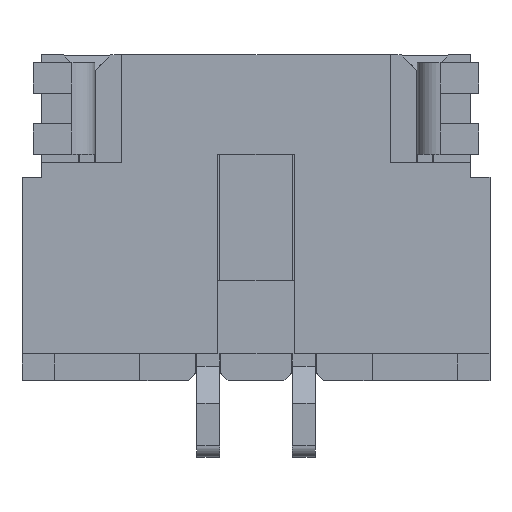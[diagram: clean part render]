
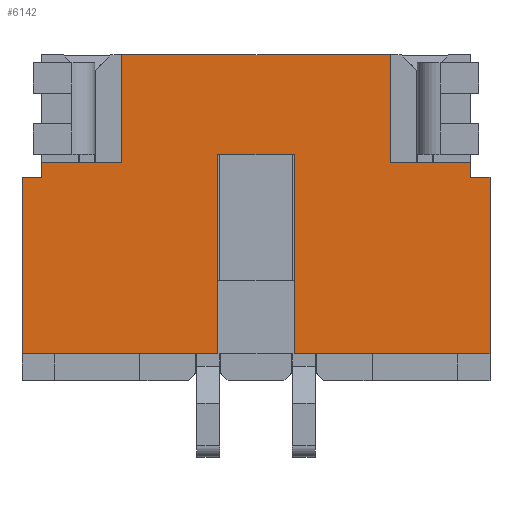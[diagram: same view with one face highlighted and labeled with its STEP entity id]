
A CAD part, top view. The second image highlights one B-rep face of the part: STEP entity #6142.
In plain terms, the highlighted planar face has unit normal (0, 0, 1).
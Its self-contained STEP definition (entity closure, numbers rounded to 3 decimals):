
#387=DIRECTION('',(0.,-1.,0.));
#388=VECTOR('',#387,2.6);
#389=CARTESIAN_POINT('',(3.555,-1.3,1.95));
#390=LINE('',#389,#388);
#439=DIRECTION('',(-1.,0.,0.));
#440=VECTOR('',#439,3.51);
#441=CARTESIAN_POINT('',(4.81,0.,1.95));
#442=LINE('',#441,#440);
#491=DIRECTION('',(0.,1.,0.));
#492=VECTOR('',#491,0.2);
#493=CARTESIAN_POINT('',(5.86,-1.6,1.95));
#494=LINE('',#493,#492);
#495=DIRECTION('',(-1.,0.,0.));
#496=VECTOR('',#495,1.05);
#497=CARTESIAN_POINT('',(5.86,-1.4,1.95));
#498=LINE('',#497,#496);
#1677=DIRECTION('',(-1.,0.,0.));
#1678=VECTOR('',#1677,1.05);
#1679=CARTESIAN_POINT('',(1.3,-1.4,1.95));
#1680=LINE('',#1679,#1678);
#1933=DIRECTION('',(0.,-1.,0.));
#1934=VECTOR('',#1933,1.4);
#1935=CARTESIAN_POINT('',(1.3,0.,1.95));
#1936=LINE('',#1935,#1934);
#1945=DIRECTION('',(0.,-1.,0.));
#1946=VECTOR('',#1945,2.6);
#1947=CARTESIAN_POINT('',(2.555,-1.3,1.95));
#1948=LINE('',#1947,#1946);
#1949=DIRECTION('',(-1.,0.,0.));
#1950=VECTOR('',#1949,2.555);
#1951=CARTESIAN_POINT('',(2.555,-3.9,1.95));
#1952=LINE('',#1951,#1950);
#1953=DIRECTION('',(0.,1.,0.));
#1954=VECTOR('',#1953,2.3);
#1955=CARTESIAN_POINT('',(0.,-3.9,1.95));
#1956=LINE('',#1955,#1954);
#1957=DIRECTION('',(1.,0.,0.));
#1958=VECTOR('',#1957,0.25);
#1959=CARTESIAN_POINT('',(0.,-1.6,1.95));
#1960=LINE('',#1959,#1958);
#1961=DIRECTION('',(-1.,0.,0.));
#1962=VECTOR('',#1961,2.555);
#1963=CARTESIAN_POINT('',(6.11,-3.9,1.95));
#1964=LINE('',#1963,#1962);
#1973=DIRECTION('',(1.,0.,0.));
#1974=VECTOR('',#1973,1.);
#1975=CARTESIAN_POINT('',(2.555,-1.3,1.95));
#1976=LINE('',#1975,#1974);
#1985=DIRECTION('',(0.,-1.,0.));
#1986=VECTOR('',#1985,0.2);
#1987=CARTESIAN_POINT('',(0.25,-1.4,1.95));
#1988=LINE('',#1987,#1986);
#2009=DIRECTION('',(0.,1.,0.));
#2010=VECTOR('',#2009,1.4);
#2011=CARTESIAN_POINT('',(4.81,-1.4,1.95));
#2012=LINE('',#2011,#2010);
#2013=DIRECTION('',(-1.,0.,0.));
#2014=VECTOR('',#2013,0.25);
#2015=CARTESIAN_POINT('',(6.11,-1.6,1.95));
#2016=LINE('',#2015,#2014);
#2045=DIRECTION('',(0.,1.,0.));
#2046=VECTOR('',#2045,2.3);
#2047=CARTESIAN_POINT('',(6.11,-3.9,1.95));
#2048=LINE('',#2047,#2046);
#2533=CARTESIAN_POINT('',(0.,-1.6,1.95));
#2535=VERTEX_POINT('',#2533);
#2537=CARTESIAN_POINT('',(0.,-3.9,1.95));
#2538=VERTEX_POINT('',#2537);
#2694=CARTESIAN_POINT('',(2.555,-1.3,1.95));
#2696=VERTEX_POINT('',#2694);
#2697=CARTESIAN_POINT('',(2.555,-3.9,1.95));
#2698=VERTEX_POINT('',#2697);
#2699=CARTESIAN_POINT('',(0.25,-1.6,1.95));
#2700=VERTEX_POINT('',#2699);
#2701=CARTESIAN_POINT('',(0.25,-1.4,1.95));
#2702=VERTEX_POINT('',#2701);
#2703=CARTESIAN_POINT('',(1.3,-1.4,1.95));
#2704=VERTEX_POINT('',#2703);
#2705=CARTESIAN_POINT('',(1.3,0.,1.95));
#2706=VERTEX_POINT('',#2705);
#2707=CARTESIAN_POINT('',(4.81,0.,1.95));
#2708=VERTEX_POINT('',#2707);
#2709=CARTESIAN_POINT('',(4.81,-1.4,1.95));
#2710=VERTEX_POINT('',#2709);
#2711=CARTESIAN_POINT('',(5.86,-1.4,1.95));
#2712=VERTEX_POINT('',#2711);
#2713=CARTESIAN_POINT('',(5.86,-1.6,1.95));
#2714=VERTEX_POINT('',#2713);
#2715=CARTESIAN_POINT('',(6.11,-1.6,1.95));
#2716=VERTEX_POINT('',#2715);
#2717=CARTESIAN_POINT('',(6.11,-3.9,1.95));
#2718=CARTESIAN_POINT('',(3.555,-3.9,1.95));
#2719=VERTEX_POINT('',#2717);
#2720=VERTEX_POINT('',#2718);
#2721=CARTESIAN_POINT('',(3.555,-1.3,1.95));
#2722=VERTEX_POINT('',#2721);
#6113=CARTESIAN_POINT('',(3.055,-1.95,1.95));
#6114=DIRECTION('',(0.,0.,1.));
#6115=DIRECTION('',(0.,-1.,0.));
#6116=AXIS2_PLACEMENT_3D('',#6113,#6114,#6115);
#6117=PLANE('',#6116);
#6119=ORIENTED_EDGE('',*,*,#6118,.T.);
#6120=ORIENTED_EDGE('',*,*,#3861,.T.);
#6121=ORIENTED_EDGE('',*,*,#3352,.T.);
#6122=ORIENTED_EDGE('',*,*,#3375,.T.);
#6124=ORIENTED_EDGE('',*,*,#6123,.F.);
#6125=ORIENTED_EDGE('',*,*,#5756,.F.);
#6126=ORIENTED_EDGE('',*,*,#6106,.F.);
#6127=ORIENTED_EDGE('',*,*,#3968,.F.);
#6129=ORIENTED_EDGE('',*,*,#6128,.F.);
#6130=ORIENTED_EDGE('',*,*,#4079,.F.);
#6131=ORIENTED_EDGE('',*,*,#4058,.F.);
#6133=ORIENTED_EDGE('',*,*,#6132,.F.);
#6135=ORIENTED_EDGE('',*,*,#6134,.F.);
#6136=ORIENTED_EDGE('',*,*,#3825,.T.);
#6137=ORIENTED_EDGE('',*,*,#3901,.F.);
#6139=ORIENTED_EDGE('',*,*,#6138,.F.);
#6140=EDGE_LOOP('',(#6119,#6120,#6121,#6122,#6124,#6125,#6126,#6127,#6129,#6130,
#6131,#6133,#6135,#6136,#6137,#6139));
#6141=FACE_OUTER_BOUND('',#6140,.F.);
#6142=ADVANCED_FACE('',(#6141),#6117,.T.);
#3352=EDGE_CURVE('',#2538,#2535,#1956,.T.);
#3375=EDGE_CURVE('',#2535,#2700,#1960,.T.);
#3825=EDGE_CURVE('',#2719,#2720,#1964,.T.);
#3861=EDGE_CURVE('',#2698,#2538,#1952,.T.);
#3901=EDGE_CURVE('',#2722,#2720,#390,.T.);
#3968=EDGE_CURVE('',#2708,#2706,#442,.T.);
#4058=EDGE_CURVE('',#2714,#2712,#494,.T.);
#4079=EDGE_CURVE('',#2712,#2710,#498,.T.);
#5756=EDGE_CURVE('',#2704,#2702,#1680,.T.);
#6106=EDGE_CURVE('',#2706,#2704,#1936,.T.);
#6118=EDGE_CURVE('',#2696,#2698,#1948,.T.);
#6123=EDGE_CURVE('',#2702,#2700,#1988,.T.);
#6128=EDGE_CURVE('',#2710,#2708,#2012,.T.);
#6132=EDGE_CURVE('',#2716,#2714,#2016,.T.);
#6134=EDGE_CURVE('',#2719,#2716,#2048,.T.);
#6138=EDGE_CURVE('',#2696,#2722,#1976,.T.);
